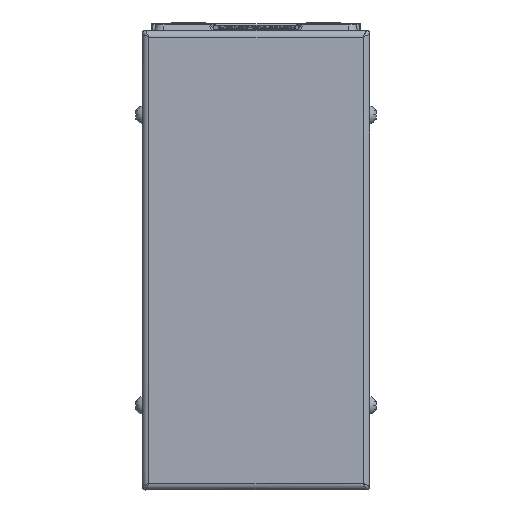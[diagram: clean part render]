
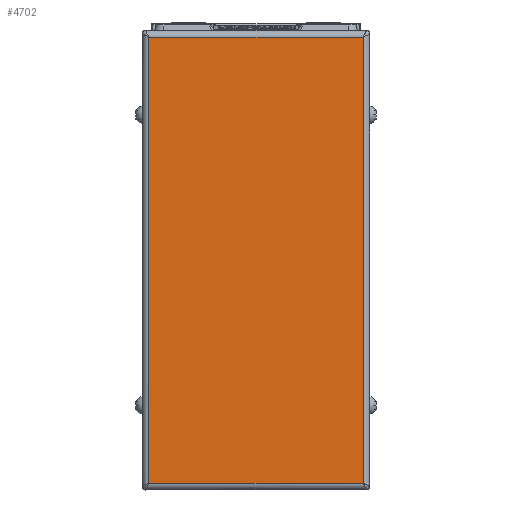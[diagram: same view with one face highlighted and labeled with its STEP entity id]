
A CAD part, left-side view. The second image highlights one B-rep face of the part: STEP entity #4702.
In plain terms, the highlighted planar face has unit normal (-1, 0, 0) as drawn and (0, 0, 1) by its records, which use the part's own axes.
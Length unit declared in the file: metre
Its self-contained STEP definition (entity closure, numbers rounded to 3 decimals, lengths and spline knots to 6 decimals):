
#4702=ADVANCED_FACE('',(#9394),#9395,.T.);
#9394=FACE_OUTER_BOUND('',#17925,.T.);
#9395=PLANE('',#17926);
#17925=EDGE_LOOP('',(#29371,#29372,#29373,#29374));
#17926=AXIS2_PLACEMENT_3D('',#29375,#29376,#29377);
#29371=ORIENTED_EDGE('',*,*,#35783,.F.);
#29372=ORIENTED_EDGE('',*,*,#34426,.F.);
#29373=ORIENTED_EDGE('',*,*,#33320,.F.);
#29374=ORIENTED_EDGE('',*,*,#32170,.F.);
#29375=CARTESIAN_POINT('',(-0.054,-0.014256,0.033889));
#29376=DIRECTION('',(0.0,0.0,1.0));
#29377=DIRECTION('',(1.0,0.0,0.0));
#32170=EDGE_CURVE('',#37713,#37716,#37717,.T.);
#33320=EDGE_CURVE('',#37716,#39554,#39555,.T.);
#34426=EDGE_CURVE('',#39554,#40578,#41171,.T.);
#35783=EDGE_CURVE('',#40578,#37713,#42923,.T.);
#37713=VERTEX_POINT('',#45997);
#37716=VERTEX_POINT('',#46009);
#37717=LINE('',#46010,#46011);
#39554=VERTEX_POINT('',#48790);
#39555=LINE('',#48791,#48792);
#40578=VERTEX_POINT('',#50349);
#41171=LINE('',#51194,#51195);
#42923=LINE('',#53641,#53642);
#45997=CARTESIAN_POINT('',(0.012,-0.045956,0.033889));
#46009=CARTESIAN_POINT('',(-0.12,-0.045956,0.033889));
#46010=CARTESIAN_POINT('',(-0.054,-0.045956,0.033889));
#46011=VECTOR('',#55310,1.0);
#48790=CARTESIAN_POINT('',(-0.12,0.017444,0.033889));
#48791=CARTESIAN_POINT('',(-0.12,-0.014256,0.033889));
#48792=VECTOR('',#56702,1.0);
#50349=CARTESIAN_POINT('',(0.012,0.017444,0.033889));
#51194=CARTESIAN_POINT('',(-0.054,0.017444,0.033889));
#51195=VECTOR('',#57995,1.0);
#53641=CARTESIAN_POINT('',(0.012,-0.014256,0.033889));
#53642=VECTOR('',#59256,1.0);
#55310=DIRECTION('',(-1.0,0.0,0.0));
#56702=DIRECTION('',(0.0,1.0,0.0));
#57995=DIRECTION('',(1.0,0.0,0.0));
#59256=DIRECTION('',(0.0,-1.0,0.0));
